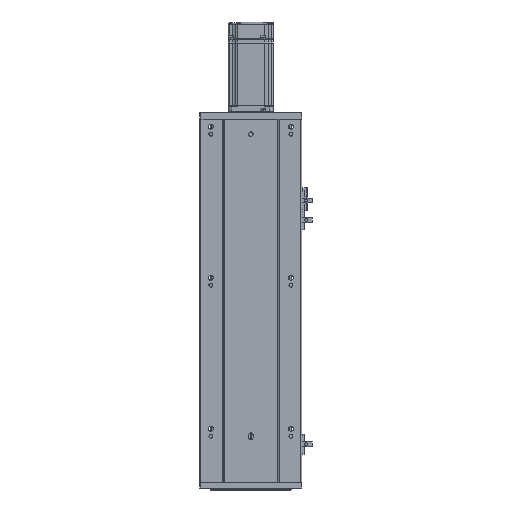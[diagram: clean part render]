
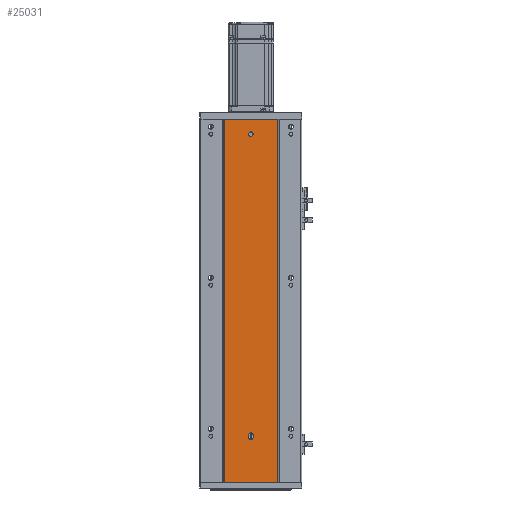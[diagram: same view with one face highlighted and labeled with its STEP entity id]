
A CAD part, front view. The second image highlights one B-rep face of the part: STEP entity #25031.
In plain terms, the highlighted planar face has unit normal (0, -1, 0).
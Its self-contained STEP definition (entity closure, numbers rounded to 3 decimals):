
#175 = VECTOR ( 'NONE', #57980, 1000. ) ;
#1676 = VERTEX_POINT ( 'NONE', #12206 ) ;
#2117 = EDGE_CURVE ( 'NONE', #28099, #31830, #54468, .T. ) ;
#2398 = ORIENTED_EDGE ( 'NONE', *, *, #41171, .F. ) ;
#2837 = CARTESIAN_POINT ( 'NONE',  ( 0., 78.746, 0. ) ) ;
#3567 = CARTESIAN_POINT ( 'NONE',  ( 137.505, 78.746, 62.5 ) ) ;
#3604 = EDGE_CURVE ( 'NONE', #31830, #19241, #37743, .T. ) ;
#4945 = CIRCLE ( 'NONE', #25678, 3. ) ;
#5527 = ORIENTED_EDGE ( 'NONE', *, *, #45138, .T. ) ;
#6328 = AXIS2_PLACEMENT_3D ( 'NONE', #17265, #33042, #52402 ) ;
#6491 = ORIENTED_EDGE ( 'NONE', *, *, #46586, .F. ) ;
#8723 = CARTESIAN_POINT ( 'NONE',  ( 170.005, 78.746, 0. ) ) ;
#8883 = EDGE_LOOP ( 'NONE', ( #31393, #59096, #5527, #55134 ) ) ;
#10514 = CARTESIAN_POINT ( 'NONE',  ( 99.005, 78.746, 0. ) ) ;
#10540 = DIRECTION ( 'NONE',  ( 0., 0., 1. ) ) ;
#11748 = CARTESIAN_POINT ( 'NONE',  ( 134.505, 78.746, 461. ) ) ;
#12206 = CARTESIAN_POINT ( 'NONE',  ( 99.005, 78.746, 481. ) ) ;
#12370 = ORIENTED_EDGE ( 'NONE', *, *, #19989, .F. ) ;
#13238 = CARTESIAN_POINT ( 'NONE',  ( 137.505, 78.746, 59.5 ) ) ;
#13670 = DIRECTION ( 'NONE',  ( 1., 0., 0. ) ) ;
#13697 = VERTEX_POINT ( 'NONE', #41695 ) ;
#13734 = DIRECTION ( 'NONE',  ( 1., 0., 0. ) ) ;
#14116 = CARTESIAN_POINT ( 'NONE',  ( 131.505, 78.746, 62.5 ) ) ;
#15369 = CIRCLE ( 'NONE', #6328, 3. ) ;
#15678 = CARTESIAN_POINT ( 'NONE',  ( 99.005, 78.746, 481. ) ) ;
#16957 = CIRCLE ( 'NONE', #47889, 3. ) ;
#17243 = VERTEX_POINT ( 'NONE', #3567 ) ;
#17265 = CARTESIAN_POINT ( 'NONE',  ( 134.505, 78.746, 59.5 ) ) ;
#17395 = LINE ( 'NONE', #40813, #41741 ) ;
#18338 = CARTESIAN_POINT ( 'NONE',  ( 0., 78.746, 481. ) ) ;
#18761 = DIRECTION ( 'NONE',  ( 1., 0., 0. ) ) ;
#19241 = VERTEX_POINT ( 'NONE', #10514 ) ;
#19284 = VERTEX_POINT ( 'NONE', #20429 ) ;
#19820 = CARTESIAN_POINT ( 'NONE',  ( 131.505, 78.746, 59.5 ) ) ;
#19989 = EDGE_CURVE ( 'NONE', #23701, #62173, #15369, .T. ) ;
#20429 = CARTESIAN_POINT ( 'NONE',  ( 134.505, 78.746, 464. ) ) ;
#23329 = EDGE_LOOP ( 'NONE', ( #6491, #59568 ) ) ;
#23701 = VERTEX_POINT ( 'NONE', #19820 ) ;
#23835 = EDGE_CURVE ( 'NONE', #52669, #23701, #27906, .T. ) ;
#25031 = ADVANCED_FACE ( 'NONE', ( #43501, #59258, #45844 ), #53465, .T. ) ;
#25678 = AXIS2_PLACEMENT_3D ( 'NONE', #49221, #53855, #13670 ) ;
#27231 = DIRECTION ( 'NONE',  ( -1., 0., 0. ) ) ;
#27906 = LINE ( 'NONE', #62176, #44416 ) ;
#28099 = VERTEX_POINT ( 'NONE', #56898 ) ;
#31393 = ORIENTED_EDGE ( 'NONE', *, *, #3604, .F. ) ;
#31435 = AXIS2_PLACEMENT_3D ( 'NONE', #18338, #58296, #18761 ) ;
#31830 = VERTEX_POINT ( 'NONE', #8723 ) ;
#33042 = DIRECTION ( 'NONE',  ( 0., -1., 0. ) ) ;
#34308 = LINE ( 'NONE', #37291, #60331 ) ;
#35628 = DIRECTION ( 'NONE',  ( 0., 0., -1. ) ) ;
#36024 = LINE ( 'NONE', #15678, #52591 ) ;
#36154 = VECTOR ( 'NONE', #27231, 1000. ) ;
#36904 = DIRECTION ( 'NONE',  ( 1., 0., 0. ) ) ;
#37291 = CARTESIAN_POINT ( 'NONE',  ( 0., 78.746, 481. ) ) ;
#37743 = LINE ( 'NONE', #2837, #36154 ) ;
#38840 = EDGE_LOOP ( 'NONE', ( #61212, #2398, #12370, #57432 ) ) ;
#38848 = CIRCLE ( 'NONE', #55231, 3. ) ;
#38999 = EDGE_CURVE ( 'NONE', #19284, #13697, #38848, .T. ) ;
#40813 = CARTESIAN_POINT ( 'NONE',  ( 137.505, 78.746, 62.5 ) ) ;
#41171 = EDGE_CURVE ( 'NONE', #62173, #17243, #17395, .T. ) ;
#41695 = CARTESIAN_POINT ( 'NONE',  ( 134.505, 78.746, 458. ) ) ;
#41741 = VECTOR ( 'NONE', #10540, 1000. ) ;
#43501 = FACE_BOUND ( 'NONE', #38840, .T. ) ;
#44416 = VECTOR ( 'NONE', #51437, 1000. ) ;
#45138 = EDGE_CURVE ( 'NONE', #28099, #1676, #34308, .T. ) ;
#45844 = FACE_OUTER_BOUND ( 'NONE', #8883, .T. ) ;
#46586 = EDGE_CURVE ( 'NONE', #13697, #19284, #16957, .T. ) ;
#47015 = DIRECTION ( 'NONE',  ( 0., -1., 0. ) ) ;
#47889 = AXIS2_PLACEMENT_3D ( 'NONE', #11748, #63827, #13734 ) ;
#48153 = EDGE_CURVE ( 'NONE', #17243, #52669, #4945, .T. ) ;
#49221 = CARTESIAN_POINT ( 'NONE',  ( 134.505, 78.746, 62.5 ) ) ;
#51437 = DIRECTION ( 'NONE',  ( 0., 0., -1. ) ) ;
#52331 = CARTESIAN_POINT ( 'NONE',  ( 134.505, 78.746, 461. ) ) ;
#52402 = DIRECTION ( 'NONE',  ( 1., 0., 0. ) ) ;
#52591 = VECTOR ( 'NONE', #35628, 1000. ) ;
#52669 = VERTEX_POINT ( 'NONE', #14116 ) ;
#53465 = PLANE ( 'NONE',  #31435 ) ;
#53855 = DIRECTION ( 'NONE',  ( 0., -1., 0. ) ) ;
#54035 = EDGE_CURVE ( 'NONE', #1676, #19241, #36024, .T. ) ;
#54468 = LINE ( 'NONE', #55659, #175 ) ;
#55134 = ORIENTED_EDGE ( 'NONE', *, *, #54035, .T. ) ;
#55231 = AXIS2_PLACEMENT_3D ( 'NONE', #52331, #47015, #36904 ) ;
#55659 = CARTESIAN_POINT ( 'NONE',  ( 170.005, 78.746, 481. ) ) ;
#56898 = CARTESIAN_POINT ( 'NONE',  ( 170.005, 78.746, 481. ) ) ;
#57432 = ORIENTED_EDGE ( 'NONE', *, *, #23835, .F. ) ;
#57980 = DIRECTION ( 'NONE',  ( 0., 0., -1. ) ) ;
#58296 = DIRECTION ( 'NONE',  ( 0., -1., 0. ) ) ;
#59096 = ORIENTED_EDGE ( 'NONE', *, *, #2117, .F. ) ;
#59258 = FACE_BOUND ( 'NONE', #23329, .T. ) ;
#59568 = ORIENTED_EDGE ( 'NONE', *, *, #38999, .F. ) ;
#60331 = VECTOR ( 'NONE', #62358, 1000. ) ;
#61212 = ORIENTED_EDGE ( 'NONE', *, *, #48153, .F. ) ;
#62173 = VERTEX_POINT ( 'NONE', #13238 ) ;
#62176 = CARTESIAN_POINT ( 'NONE',  ( 131.505, 78.746, 62.5 ) ) ;
#62358 = DIRECTION ( 'NONE',  ( -1., 0., 0. ) ) ;
#63827 = DIRECTION ( 'NONE',  ( 0., -1., 0. ) ) ;
